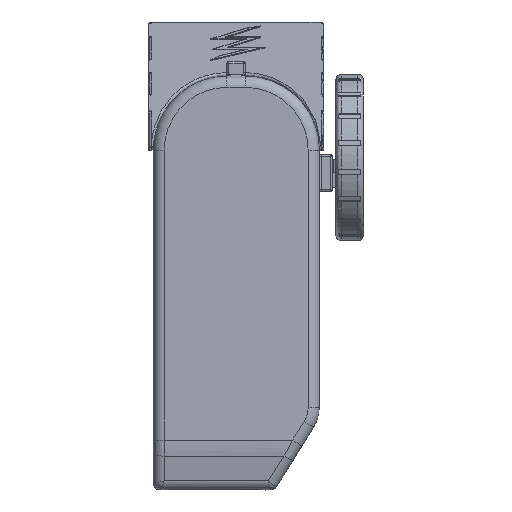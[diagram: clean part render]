
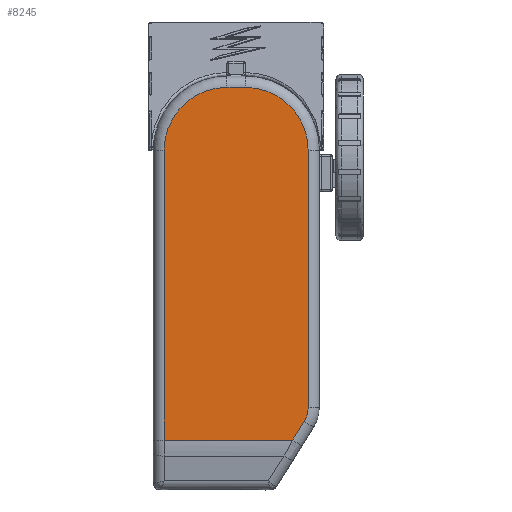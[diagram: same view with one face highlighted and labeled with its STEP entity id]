
A CAD part, front view. The second image highlights one B-rep face of the part: STEP entity #8245.
In plain terms, the highlighted planar face has unit normal (0, -1, 0).
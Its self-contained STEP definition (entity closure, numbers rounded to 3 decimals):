
#205=PLANE('',#8899);
#458=LINE('',#18237,#899);
#459=LINE('',#18245,#900);
#461=LINE('',#18264,#902);
#464=LINE('',#18298,#905);
#504=LINE('',#19071,#945);
#899=VECTOR('',#9929,157.122);
#900=VECTOR('',#9940,10.);
#902=VECTOR('',#9964,11.921);
#905=VECTOR('',#9977,139.592);
#945=VECTOR('',#10243,69.554);
#1624=FACE_OUTER_BOUND('',#2156,.T.);
#2156=EDGE_LOOP('',(#6539,#6540,#6541,#6542,#6543,#6544,#6545,#6546));
#2586=CIRCLE('',#8766,34.);
#2590=CIRCLE('',#8772,34.);
#2592=CIRCLE('',#8775,14.);
#3566=VERTEX_POINT('',#18228);
#3568=VERTEX_POINT('',#18234);
#3569=VERTEX_POINT('',#18239);
#3570=VERTEX_POINT('',#18243);
#3571=VERTEX_POINT('',#18247);
#3572=VERTEX_POINT('',#18252);
#3573=VERTEX_POINT('',#18254);
#3575=VERTEX_POINT('',#18260);
#4540=EDGE_CURVE('',#3566,#3568,#458,.T.);
#4542=EDGE_CURVE('',#3568,#3569,#2586,.T.);
#4544=EDGE_CURVE('',#3569,#3570,#459,.T.);
#4547=EDGE_CURVE('',#3570,#3571,#2590,.T.);
#4549=EDGE_CURVE('',#3572,#3573,#2592,.T.);
#4554=EDGE_CURVE('',#3573,#3575,#461,.T.);
#4560=EDGE_CURVE('',#3571,#3572,#464,.T.);
#4684=EDGE_CURVE('',#3575,#3566,#504,.T.);
#6539=ORIENTED_EDGE('',*,*,#4540,.F.);
#6540=ORIENTED_EDGE('',*,*,#4684,.F.);
#6541=ORIENTED_EDGE('',*,*,#4554,.F.);
#6542=ORIENTED_EDGE('',*,*,#4549,.F.);
#6543=ORIENTED_EDGE('',*,*,#4560,.F.);
#6544=ORIENTED_EDGE('',*,*,#4547,.F.);
#6545=ORIENTED_EDGE('',*,*,#4544,.F.);
#6546=ORIENTED_EDGE('',*,*,#4542,.F.);
#8245=ADVANCED_FACE('',(#1624),#205,.F.);
#8766=AXIS2_PLACEMENT_3D('',#18241,#9934,#9935);
#8772=AXIS2_PLACEMENT_3D('',#18250,#9947,#9948);
#8775=AXIS2_PLACEMENT_3D('',#18255,#9953,#9954);
#8899=AXIS2_PLACEMENT_3D('',#19076,#10248,#10249);
#9929=DIRECTION('',(0.,0.,1.));
#9934=DIRECTION('center_axis',(0.,1.,0.));
#9935=DIRECTION('ref_axis',(-0.707,0.,0.707));
#9940=DIRECTION('',(1.,0.,0.));
#9947=DIRECTION('center_axis',(0.,1.,0.));
#9948=DIRECTION('ref_axis',(0.707,0.,0.707));
#9953=DIRECTION('center_axis',(0.,1.,0.));
#9954=DIRECTION('ref_axis',(0.961,0.,-0.276));
#9964=DIRECTION('',(-0.53,0.,-0.848));
#9977=DIRECTION('',(0.,0.,-1.));
#10243=DIRECTION('',(-1.,0.,0.));
#10248=DIRECTION('center_axis',(0.,1.,0.));
#10249=DIRECTION('ref_axis',(0.,0.,-1.));
#18228=CARTESIAN_POINT('',(2.,-264.,182.833));
#18234=CARTESIAN_POINT('',(2.,-264.,339.955));
#18237=CARTESIAN_POINT('',(2.,-264.,379.955));
#18239=CARTESIAN_POINT('',(36.,-264.,373.955));
#18241=CARTESIAN_POINT('Origin',(36.,-264.,339.955));
#18243=CARTESIAN_POINT('',(46.,-264.,373.955));
#18245=CARTESIAN_POINT('',(86.,-264.,373.955));
#18247=CARTESIAN_POINT('',(80.,-264.,339.955));
#18250=CARTESIAN_POINT('Origin',(46.,-264.,339.955));
#18252=CARTESIAN_POINT('',(80.,-264.,200.362));
#18254=CARTESIAN_POINT('',(77.872,-264.,192.942));
#18255=CARTESIAN_POINT('Origin',(66.,-264.,200.362));
#18260=CARTESIAN_POINT('',(71.554,-264.,182.833));
#18264=CARTESIAN_POINT('',(110.417,-264.,245.015));
#18298=CARTESIAN_POINT('',(80.,-264.,287.29));
#19071=CARTESIAN_POINT('',(86.,-264.,182.833));
#19076=CARTESIAN_POINT('Origin',(86.,-264.,379.955));
